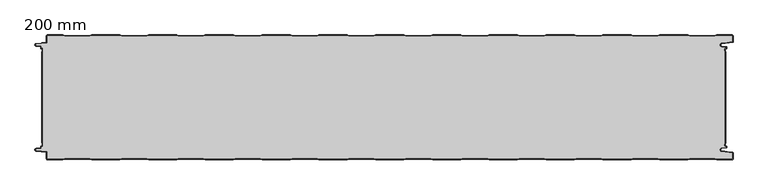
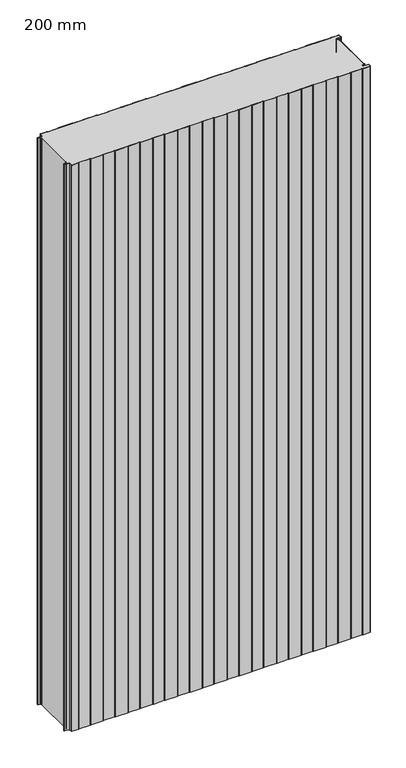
"""IFC4 building model written with IfcOpenShell, lengths in millimetres: plate geometry, HIANSA PANEL - H20.F03.001-PANEL FRIGORÍFICO - PANEL FRIGO - Panel de Muro Cortina : 200 mm."""

from ifc_helpers import new_model, si_unit, point, frame_2d, origin, origin_with_axes, place, context, project, spatial, polyline, circle_curve, trimmed, segment, composite_curve, outline, extrude, source, transform, mapped, element, save


def plate_200_mm_aa99bd64(model_context):
    return source(origin(), model_context, "Body", "SweptSolid", [
        extrude(outline(polyline([(555.9827922, -174.0), (555.9827922, -26.0), (556.4221321, -26.6713576), (556.4221321, -173.3286424), (555.9827922, -174.0)])), origin_with_axes(), (0.0, 0.0, 1.0), 2200.0),
        extrude(outline(polyline([(-538.5172078, -26.0), (-538.5172078, -174.0), (-539.1172077, -172.9695032), (-539.1172077, -27.0304968), (-538.5172078, -26.0)])), origin_with_axes(), (0.0, 0.0, 1.0), 2200.0),
        extrude(outline(composite_curve([segment(polyline([(-370.9360691, -1.5), (-411.0983467, -1.5), (-414.0983467, -0.5), (-458.9360691, -0.5), (-461.9360691, -1.5), (-502.0983467, -1.5), (-505.0983467, -0.5), (-529.9172079, -0.5)]), True, "CONTINUOUS"), segment(trimmed(circle_curve(frame_2d((-529.9172079, -1.6)), 1.1), [point((-529.9172079, -0.5))], [point((-531.0172079, -1.6))], True, "CARTESIAN"), True, "CONTINUOUS"), segment(polyline([(-531.0172079, -1.6), (-531.0172079, -11.7987531)]), True, "CONTINUOUS"), segment(trimmed(circle_curve(frame_2d((-532.0172079, -11.7987531)), 1.0), [point((-531.0172079, -11.7987531))], [point((-531.9177042, -12.7937903))], False, "CARTESIAN"), True, "CONTINUOUS"), segment(polyline([(-531.9177042, -12.7937903), (-548.0592062, -14.4079404)]), True, "CONTINUOUS"), segment(trimmed(circle_curve(frame_2d((-547.9000002, -15.9999999)), 1.6), [point((-548.0592062, -14.4079404))], [point((-548.0592062, -17.5920594))], True, "CARTESIAN"), True, "CONTINUOUS"), segment(polyline([(-548.0592062, -17.5920594), (-541.4177042, -18.2562097)]), True, "CONTINUOUS"), segment(trimmed(circle_curve(frame_2d((-541.5172079, -19.2512469)), 1.0), [point((-541.4177042, -18.2562097))], [point((-540.5172079, -19.2512469))], False, "CARTESIAN"), True, "CONTINUOUS"), segment(polyline([(-540.5172079, -19.2512469), (-540.5172079, -21.5), (-539.0172079, -21.5)]), True, "CONTINUOUS"), segment(trimmed(circle_curve(frame_2d((-539.0172079, -22.5)), 1.0), [point((-539.0172079, -21.5))], [point((-538.0172079, -22.5))], False, "CARTESIAN"), True, "CONTINUOUS"), segment(polyline([(-538.0172079, -22.5), (-538.0172079, -25.1412526), (-538.5172079, -26.0), (-538.5172079, -22.0), (-540.0172079, -22.0)]), True, "CONTINUOUS"), segment(trimmed(circle_curve(frame_2d((-540.0172079, -21.0)), 1.0), [point((-540.0172079, -22.0))], [point((-541.0172079, -21.0))], False, "CARTESIAN"), True, "CONTINUOUS"), segment(polyline([(-541.0172079, -21.0), (-541.0172079, -18.7987531), (-548.1089579, -18.0895783)]), True, "CONTINUOUS"), segment(trimmed(circle_curve(frame_2d((-547.9000002, -16.0000002)), 2.1), [point((-548.1089579, -18.0895783))], [point((-548.108958, -13.9104221))], False, "CARTESIAN"), True, "CONTINUOUS"), segment(polyline([(-548.108958, -13.9104221), (-531.5172079, -12.2512469), (-531.5172079, -1.6)]), True, "CONTINUOUS"), segment(trimmed(circle_curve(frame_2d((-529.9172079, -1.6)), 1.6), [point((-531.5172079, -1.6))], [point((-529.9172079, 0.0))], False, "CARTESIAN"), True, "CONTINUOUS"), segment(polyline([(-529.9172079, 0.0), (-505.0172079, 0.0), (-502.0172079, -1.0), (-462.0172079, -1.0), (-459.0172079, 0.0), (-414.0172079, 0.0), (-411.0172079, -1.0), (-371.0172079, -1.0), (-368.0172079, 0.0), (-323.0172079, 0.0), (-320.0172079, -1.0), (-280.0172079, -1.0), (-277.0172079, 0.0), (-232.0172079, 0.0), (-229.0172079, -1.0), (-189.0172079, -1.0), (-186.0172079, 0.0), (-141.0172079, 0.0), (-138.0172079, -1.0), (-98.0172079, -1.0), (-95.0172079, 0.0), (-50.0172079, 0.0), (-47.0172079, -1.0), (-7.0172079, -1.0), (-4.0172079, 0.0), (40.9827921, 0.0), (43.9827921, -1.0), (83.9827921, -1.0), (86.9827921, 0.0), (131.9827921, 0.0), (134.9827921, -1.0), (174.9827921, -1.0), (177.9827921, 0.0), (222.9827921, 0.0), (225.9827921, -1.0), (265.9827921, -1.0), (268.9827921, 0.0), (313.9827921, 0.0), (316.9827921, -1.0), (356.9827921, -1.0), (359.9827921, 0.0), (404.9827921, 0.0), (407.9827921, -1.0), (447.9827921, -1.0), (450.9827921, 0.0), (495.9827921, 0.0), (498.9827921, -1.0), (538.9827921, -1.0), (541.9827921, 0.0), (566.8827921, 0.0)]), True, "CONTINUOUS"), segment(trimmed(circle_curve(frame_2d((566.8827921, -1.6)), 1.6), [point((566.8827921, 0.0))], [point((568.4827921, -1.6))], False, "CARTESIAN"), True, "CONTINUOUS"), segment(polyline([(568.4827921, -1.6), (568.4827921, -11.0950124)]), True, "CONTINUOUS"), segment(trimmed(circle_curve(frame_2d((567.4827921, -11.0950124)), 1.0), [point((568.4827921, -11.0950124))], [point((567.5822958, -12.0900496))], False, "CARTESIAN"), True, "CONTINUOUS"), segment(polyline([(567.5822958, -12.0900496), (550.2837847, -13.8199007)]), True, "CONTINUOUS"), segment(trimmed(circle_curve(frame_2d((550.5873461, -16.0)), 2.2011321), [point((550.2837847, -13.8199007))], [point((550.2837847, -18.1800993))], True, "CARTESIAN"), True, "CONTINUOUS"), segment(polyline([(550.2837847, -18.1800993), (557.5822958, -18.9099504)]), True, "CONTINUOUS"), segment(trimmed(circle_curve(frame_2d((557.4827921, -19.9049876)), 1.0), [point((557.5822958, -18.9099504))], [point((558.4827921, -19.9049876))], False, "CARTESIAN"), True, "CONTINUOUS"), segment(polyline([(558.4827921, -19.9049876), (558.4827921, -21.0)]), True, "CONTINUOUS"), segment(trimmed(circle_curve(frame_2d((557.4827921, -21.0)), 1.0), [point((558.4827921, -21.0))], [point((557.4827921, -22.0))], False, "CARTESIAN"), True, "CONTINUOUS"), segment(polyline([(557.4827921, -22.0), (555.9827921, -22.0), (555.9827921, -26.0), (555.4827921, -25.2359473), (555.4827921, -22.5)]), True, "CONTINUOUS"), segment(trimmed(circle_curve(frame_2d((556.4827921, -22.5)), 1.0), [point((555.4827921, -22.5))], [point((556.4827921, -21.5))], False, "CARTESIAN"), True, "CONTINUOUS"), segment(polyline([(556.4827921, -21.5), (557.9827921, -21.5), (557.9827921, -19.4524938), (550.2340328, -18.6776179)]), True, "CONTINUOUS"), segment(trimmed(circle_curve(frame_2d((550.5859823, -16.0)), 2.7006492), [point((550.2340328, -18.6776179))], [point((550.2340328, -13.3223821))], False, "CARTESIAN"), True, "CONTINUOUS"), segment(polyline([(550.2340328, -13.3223821), (567.9827921, -11.5475062), (567.9827921, -1.6)]), True, "CONTINUOUS"), segment(trimmed(circle_curve(frame_2d((566.8827921, -1.6)), 1.1), [point((567.9827921, -1.6))], [point((566.8827921, -0.5))], True, "CARTESIAN"), True, "CONTINUOUS"), segment(polyline([(566.8827921, -0.5), (542.0639309, -0.5), (539.0639309, -1.5), (498.9016533, -1.5), (495.9016533, -0.5), (451.0639309, -0.5), (448.0639309, -1.5), (407.9016533, -1.5), (404.9016533, -0.5), (360.0639309, -0.5), (357.0639309, -1.5), (316.9016533, -1.5), (313.9016533, -0.5), (269.0639309, -0.5), (266.0639309, -1.5), (225.9016533, -1.5), (222.9016533, -0.5), (178.0639309, -0.5), (175.0639309, -1.5), (134.9016533, -1.5), (131.9016533, -0.5), (87.0639309, -0.5), (84.0639309, -1.5), (43.9016533, -1.5), (40.9016533, -0.5), (-3.9360691, -0.5), (-6.9360691, -1.5), (-47.0983467, -1.5), (-50.0983467, -0.5), (-94.9360691, -0.5), (-97.9360691, -1.5), (-138.0983467, -1.5), (-141.0983467, -0.5), (-185.9360691, -0.5), (-188.9360691, -1.5), (-229.0983467, -1.5), (-232.0983467, -0.5), (-276.9360691, -0.5), (-279.9360691, -1.5), (-320.0983467, -1.5), (-323.0983467, -0.5), (-367.9360691, -0.5), (-370.9360691, -1.5)]), True, "CONTINUOUS")], self_intersect=False)), origin_with_axes(), (0.0, 0.0, 1.0), 2200.0),
        extrude(outline(composite_curve([segment(polyline([(-370.9360691, -198.5), (-367.9360691, -199.5), (-323.0983467, -199.5), (-320.0983467, -198.5), (-279.9360691, -198.5), (-276.9360691, -199.5), (-232.0983467, -199.5), (-229.0983467, -198.5), (-188.9360691, -198.5), (-185.9360691, -199.5), (-141.0983467, -199.5), (-138.0983467, -198.5), (-97.9360691, -198.5), (-94.9360691, -199.5), (-50.0983467, -199.5), (-47.0983467, -198.5), (-6.9360691, -198.5), (-3.9360691, -199.5), (40.9016533, -199.5), (43.9016533, -198.5), (84.0639309, -198.5), (87.0639309, -199.5), (131.9016533, -199.5), (134.9016533, -198.5), (175.0639309, -198.5), (178.0639309, -199.5), (222.9016533, -199.5), (225.9016533, -198.5), (266.0639309, -198.5), (269.0639309, -199.5), (313.9016533, -199.5), (316.9016533, -198.5), (357.0639309, -198.5), (360.0639309, -199.5), (404.9016533, -199.5), (407.9016533, -198.5), (448.0639309, -198.5), (451.0639309, -199.5), (495.9016533, -199.5), (498.9016533, -198.5), (539.0639309, -198.5), (542.0639309, -199.5), (566.8827921, -199.5)]), True, "CONTINUOUS"), segment(trimmed(circle_curve(frame_2d((566.8827921, -198.4)), 1.1), [point((566.8827921, -199.5))], [point((567.9827921, -198.4))], True, "CARTESIAN"), True, "CONTINUOUS"), segment(polyline([(567.9827921, -198.4), (567.9827921, -188.4524938), (550.2340328, -186.6776179)]), True, "CONTINUOUS"), segment(trimmed(circle_curve(frame_2d((550.5859823, -184.0)), 2.7006492), [point((550.2340328, -186.6776179))], [point((550.2340328, -181.3223821))], False, "CARTESIAN"), True, "CONTINUOUS"), segment(polyline([(550.2340328, -181.3223821), (557.9827921, -180.5475062), (557.9827921, -178.5), (556.4827921, -178.5)]), True, "CONTINUOUS"), segment(trimmed(circle_curve(frame_2d((556.4827921, -177.5)), 1.0), [point((556.4827921, -178.5))], [point((555.4827921, -177.5))], False, "CARTESIAN"), True, "CONTINUOUS"), segment(polyline([(555.4827921, -177.5), (555.4827921, -174.7640527), (555.9827921, -174.0), (555.9827921, -178.0), (557.4827921, -178.0)]), True, "CONTINUOUS"), segment(trimmed(circle_curve(frame_2d((557.4827921, -179.0)), 1.0), [point((557.4827921, -178.0))], [point((558.4827921, -179.0))], False, "CARTESIAN"), True, "CONTINUOUS"), segment(polyline([(558.4827921, -179.0), (558.4827921, -180.0950124)]), True, "CONTINUOUS"), segment(trimmed(circle_curve(frame_2d((557.4827921, -180.0950124)), 1.0), [point((558.4827921, -180.0950124))], [point((557.5822958, -181.0900496))], False, "CARTESIAN"), True, "CONTINUOUS"), segment(polyline([(557.5822958, -181.0900496), (550.2837847, -181.8199007)]), True, "CONTINUOUS"), segment(trimmed(circle_curve(frame_2d((550.5873461, -184.0)), 2.2011321), [point((550.2837847, -181.8199007))], [point((550.2837847, -186.1800993))], True, "CARTESIAN"), True, "CONTINUOUS"), segment(polyline([(550.2837847, -186.1800993), (567.5822958, -187.9099504)]), True, "CONTINUOUS"), segment(trimmed(circle_curve(frame_2d((567.4827921, -188.9049876)), 1.0), [point((567.5822958, -187.9099504))], [point((568.4827921, -188.9049876))], False, "CARTESIAN"), True, "CONTINUOUS"), segment(polyline([(568.4827921, -188.9049876), (568.4827921, -198.4)]), True, "CONTINUOUS"), segment(trimmed(circle_curve(frame_2d((566.8827921, -198.4)), 1.6), [point((568.4827921, -198.4))], [point((566.8827921, -200.0))], False, "CARTESIAN"), True, "CONTINUOUS"), segment(polyline([(566.8827921, -200.0), (541.9827921, -200.0), (538.9827921, -199.0), (498.9827921, -199.0), (495.9827921, -200.0), (450.9827921, -200.0), (447.9827921, -199.0), (407.9827921, -199.0), (404.9827921, -200.0), (359.9827921, -200.0), (356.9827921, -199.0), (316.9827921, -199.0), (313.9827921, -200.0), (268.9827921, -200.0), (265.9827921, -199.0), (225.9827921, -199.0), (222.9827921, -200.0), (177.9827921, -200.0), (174.9827921, -199.0), (134.9827921, -199.0), (131.9827921, -200.0), (86.9827921, -200.0), (83.9827921, -199.0), (43.9827921, -199.0), (40.9827921, -200.0), (-4.0172079, -200.0), (-7.0172079, -199.0), (-47.0172079, -199.0), (-50.0172079, -200.0), (-95.0172079, -200.0), (-98.0172079, -199.0), (-138.0172079, -199.0), (-141.0172079, -200.0), (-186.0172079, -200.0), (-189.0172079, -199.0), (-229.0172079, -199.0), (-232.0172079, -200.0), (-277.0172079, -200.0), (-280.0172079, -199.0), (-320.0172079, -199.0), (-323.0172079, -200.0), (-368.0172079, -200.0), (-371.0172079, -199.0), (-411.0172079, -199.0), (-414.0172079, -200.0), (-459.0172079, -200.0), (-462.0172079, -199.0), (-502.0172079, -199.0), (-505.0172079, -200.0), (-529.9172079, -200.0)]), True, "CONTINUOUS"), segment(trimmed(circle_curve(frame_2d((-529.9172079, -198.4)), 1.6), [point((-529.9172079, -200.0))], [point((-531.5172079, -198.4))], False, "CARTESIAN"), True, "CONTINUOUS"), segment(polyline([(-531.5172079, -198.4), (-531.5172079, -187.7487531), (-548.108958, -186.0895779)]), True, "CONTINUOUS"), segment(trimmed(circle_curve(frame_2d((-547.9000002, -183.9999998)), 2.1), [point((-548.108958, -186.0895779))], [point((-548.1089579, -181.9104217))], False, "CARTESIAN"), True, "CONTINUOUS"), segment(polyline([(-548.1089579, -181.9104217), (-541.0172079, -181.2012469), (-541.0172079, -179.0)]), True, "CONTINUOUS"), segment(trimmed(circle_curve(frame_2d((-540.0172079, -179.0)), 1.0), [point((-541.0172079, -179.0))], [point((-540.0172079, -178.0))], False, "CARTESIAN"), True, "CONTINUOUS"), segment(polyline([(-540.0172079, -178.0), (-538.5172079, -178.0), (-538.5172079, -174.0), (-538.0172079, -174.8587474), (-538.0172079, -177.5)]), True, "CONTINUOUS"), segment(trimmed(circle_curve(frame_2d((-539.0172079, -177.5)), 1.0), [point((-538.0172079, -177.5))], [point((-539.0172079, -178.5))], False, "CARTESIAN"), True, "CONTINUOUS"), segment(polyline([(-539.0172079, -178.5), (-540.5172079, -178.5), (-540.5172079, -180.7487531)]), True, "CONTINUOUS"), segment(trimmed(circle_curve(frame_2d((-541.5172079, -180.7487531)), 1.0), [point((-540.5172079, -180.7487531))], [point((-541.4177042, -181.7437903))], False, "CARTESIAN"), True, "CONTINUOUS"), segment(polyline([(-541.4177042, -181.7437903), (-548.0592062, -182.4079406)]), True, "CONTINUOUS"), segment(trimmed(circle_curve(frame_2d((-547.9000002, -184.0000001)), 1.6), [point((-548.0592062, -182.4079406))], [point((-548.0592062, -185.5920596))], True, "CARTESIAN"), True, "CONTINUOUS"), segment(polyline([(-548.0592062, -185.5920596), (-531.9177042, -187.2062097)]), True, "CONTINUOUS"), segment(trimmed(circle_curve(frame_2d((-532.0172079, -188.2012469)), 1.0), [point((-531.9177042, -187.2062097))], [point((-531.0172079, -188.2012469))], False, "CARTESIAN"), True, "CONTINUOUS"), segment(polyline([(-531.0172079, -188.2012469), (-531.0172079, -198.4)]), True, "CONTINUOUS"), segment(trimmed(circle_curve(frame_2d((-529.9172079, -198.4)), 1.1), [point((-531.0172079, -198.4))], [point((-529.9172079, -199.5))], True, "CARTESIAN"), True, "CONTINUOUS"), segment(polyline([(-529.9172079, -199.5), (-505.0983467, -199.5), (-502.0983467, -198.5), (-461.9360691, -198.5), (-458.9360691, -199.5), (-414.0983467, -199.5), (-411.0983467, -198.5), (-370.9360691, -198.5)]), True, "CONTINUOUS")], self_intersect=False)), origin_with_axes(), (0.0, 0.0, 1.0), 2200.0),
        extrude(outline(composite_curve([segment(polyline([(-461.936069, -1.5), (-458.936069, -0.5), (-414.0983467, -0.5), (-411.0983467, -1.5), (-370.936069, -1.5), (-367.936069, -0.5), (-323.0983467, -0.5), (-320.0983467, -1.5), (-279.936069, -1.5), (-276.936069, -0.5), (-232.0983467, -0.5), (-229.0983467, -1.5), (-188.936069, -1.5), (-185.936069, -0.5), (-141.0983467, -0.5), (-138.0983467, -1.5), (-97.936069, -1.5), (-94.936069, -0.5), (-50.0983467, -0.5), (-47.0983467, -1.5), (-6.936069, -1.5), (-3.936069, -0.5), (40.9016533, -0.5), (43.9016533, -1.5), (84.063931, -1.5), (87.063931, -0.5), (131.9016533, -0.5), (134.9016533, -1.5), (175.063931, -1.5), (178.063931, -0.5), (222.9016533, -0.5), (225.9016533, -1.5), (266.063931, -1.5), (269.063931, -0.5), (313.9016533, -0.5), (316.9016533, -1.5), (357.063931, -1.5), (360.063931, -0.5), (404.9016533, -0.5), (407.9016533, -1.5), (448.063931, -1.5), (451.063931, -0.5), (495.9016533, -0.5), (498.9016533, -1.5), (539.063931, -1.5), (542.063931, -0.5), (566.8827921, -0.5)]), True, "CONTINUOUS"), segment(trimmed(circle_curve(frame_2d((566.8827921, -1.6)), 1.1), [point((566.8827921, -0.5))], [point((567.9827921, -1.6))], False, "CARTESIAN"), True, "CONTINUOUS"), segment(polyline([(567.9827921, -1.6), (567.9827921, -11.5475062), (550.2340328, -13.3223821)]), True, "CONTINUOUS"), segment(trimmed(circle_curve(frame_2d((550.5859824, -16.0)), 2.7006492), [point((550.2340328, -13.3223821))], [point((550.2340328, -18.6776179))], True, "CARTESIAN"), True, "CONTINUOUS"), segment(polyline([(550.2340328, -18.6776179), (557.9827921, -19.4524938), (557.9827921, -21.5), (556.4827921, -21.5)]), True, "CONTINUOUS"), segment(trimmed(circle_curve(frame_2d((556.4827921, -22.5)), 1.0), [point((556.4827921, -21.5))], [point((555.4827921, -22.5))], True, "CARTESIAN"), True, "CONTINUOUS"), segment(polyline([(555.4827921, -22.5), (555.4827921, -25.2359473), (555.9827921, -26.0), (555.9827921, -174.0), (555.4827921, -174.7640527), (555.4827921, -177.5)]), True, "CONTINUOUS"), segment(trimmed(circle_curve(frame_2d((556.4827921, -177.5)), 1.0), [point((555.4827921, -177.5))], [point((556.4827921, -178.5))], True, "CARTESIAN"), True, "CONTINUOUS"), segment(polyline([(556.4827921, -178.5), (557.9827921, -178.5), (557.9827921, -180.5475062), (550.2340328, -181.3223821)]), True, "CONTINUOUS"), segment(trimmed(circle_curve(frame_2d((550.5859824, -184.0)), 2.7006492), [point((550.2340328, -181.3223821))], [point((550.2340328, -186.6776179))], True, "CARTESIAN"), True, "CONTINUOUS"), segment(polyline([(550.2340328, -186.6776179), (567.9827921, -188.4524938), (567.9827921, -198.4)]), True, "CONTINUOUS"), segment(trimmed(circle_curve(frame_2d((566.8827921, -198.4)), 1.1), [point((567.9827921, -198.4))], [point((566.8827921, -199.5))], False, "CARTESIAN"), True, "CONTINUOUS"), segment(polyline([(566.8827921, -199.5), (542.063931, -199.5), (539.063931, -198.5), (498.9016533, -198.5), (495.9016533, -199.5), (451.063931, -199.5), (448.063931, -198.5), (407.9016533, -198.5), (404.9016533, -199.5), (360.063931, -199.5), (357.063931, -198.5), (316.9016533, -198.5), (313.9016533, -199.5), (269.063931, -199.5), (266.063931, -198.5), (225.9016533, -198.5), (222.9016533, -199.5), (178.063931, -199.5), (175.063931, -198.5), (134.9016533, -198.5), (131.9016533, -199.5), (87.063931, -199.5), (84.063931, -198.5), (43.9016533, -198.5), (40.9016533, -199.5), (-3.936069, -199.5), (-6.936069, -198.5), (-47.0983467, -198.5), (-50.0983467, -199.5), (-94.936069, -199.5), (-97.936069, -198.5), (-138.0983467, -198.5), (-141.0983467, -199.5), (-185.936069, -199.5), (-188.936069, -198.5), (-229.0983467, -198.5), (-232.0983467, -199.5), (-276.936069, -199.5), (-279.936069, -198.5), (-320.0983467, -198.5), (-323.0983467, -199.5), (-367.936069, -199.5), (-370.936069, -198.5), (-411.0983467, -198.5), (-414.0983467, -199.5), (-458.936069, -199.5), (-461.936069, -198.5), (-502.0983467, -198.5), (-505.0983467, -199.5), (-529.9172079, -199.5)]), True, "CONTINUOUS"), segment(trimmed(circle_curve(frame_2d((-529.9172079, -198.4)), 1.1), [point((-529.9172079, -199.5))], [point((-531.0172079, -198.4))], False, "CARTESIAN"), True, "CONTINUOUS"), segment(polyline([(-531.0172079, -198.4), (-531.0172079, -188.2012469)]), True, "CONTINUOUS"), segment(trimmed(circle_curve(frame_2d((-532.0172079, -188.2012469)), 1.0), [point((-531.0172079, -188.2012469))], [point((-531.9177042, -187.2062097))], True, "CARTESIAN"), True, "CONTINUOUS"), segment(polyline([(-531.9177042, -187.2062097), (-548.0592062, -185.5920596)]), True, "CONTINUOUS"), segment(trimmed(circle_curve(frame_2d((-547.9000002, -184.0000001)), 1.6), [point((-548.0592062, -185.5920596))], [point((-548.0592062, -182.4079406))], False, "CARTESIAN"), True, "CONTINUOUS"), segment(polyline([(-548.0592062, -182.4079406), (-541.4177041, -181.7437903)]), True, "CONTINUOUS"), segment(trimmed(circle_curve(frame_2d((-541.5172079, -180.7487531)), 1.0), [point((-541.4177041, -181.7437903))], [point((-540.5172079, -180.7487531))], True, "CARTESIAN"), True, "CONTINUOUS"), segment(polyline([(-540.5172079, -180.7487531), (-540.5172079, -178.5), (-539.0172079, -178.5)]), True, "CONTINUOUS"), segment(trimmed(circle_curve(frame_2d((-539.0172079, -177.5)), 1.0), [point((-539.0172079, -178.5))], [point((-538.0172079, -177.5))], True, "CARTESIAN"), True, "CONTINUOUS"), segment(polyline([(-538.0172079, -177.5), (-538.0172079, -174.8587474), (-538.5172079, -174.0), (-538.5172079, -26.0), (-538.0172079, -25.1412526), (-538.0172079, -22.5)]), True, "CONTINUOUS"), segment(trimmed(circle_curve(frame_2d((-539.0172079, -22.5)), 1.0), [point((-538.0172079, -22.5))], [point((-539.0172079, -21.5))], True, "CARTESIAN"), True, "CONTINUOUS"), segment(polyline([(-539.0172079, -21.5), (-540.5172079, -21.5), (-540.5172079, -19.2512469)]), True, "CONTINUOUS"), segment(trimmed(circle_curve(frame_2d((-541.5172079, -19.2512469)), 1.0), [point((-540.5172079, -19.2512469))], [point((-541.4177041, -18.2562097))], True, "CARTESIAN"), True, "CONTINUOUS"), segment(polyline([(-541.4177041, -18.2562097), (-548.0592062, -17.5920594)]), True, "CONTINUOUS"), segment(trimmed(circle_curve(frame_2d((-547.9000003, -15.9999999)), 1.6), [point((-548.0592062, -17.5920594))], [point((-548.0592062, -14.4079404))], False, "CARTESIAN"), True, "CONTINUOUS"), segment(polyline([(-548.0592062, -14.4079404), (-531.9177042, -12.7937903)]), True, "CONTINUOUS"), segment(trimmed(circle_curve(frame_2d((-532.0172079, -11.7987531)), 1.0), [point((-531.9177042, -12.7937903))], [point((-531.0172079, -11.7987531))], True, "CARTESIAN"), True, "CONTINUOUS"), segment(polyline([(-531.0172079, -11.7987531), (-531.0172079, -1.6)]), True, "CONTINUOUS"), segment(trimmed(circle_curve(frame_2d((-529.9172079, -1.6)), 1.1), [point((-531.0172079, -1.6))], [point((-529.9172079, -0.5))], False, "CARTESIAN"), True, "CONTINUOUS"), segment(polyline([(-529.9172079, -0.5), (-505.0983467, -0.5), (-502.0983467, -1.5), (-461.936069, -1.5)]), True, "CONTINUOUS")], self_intersect=False)), origin_with_axes(), (0.0, 0.0, 1.0), 2200.0),
    ])


if __name__ == "__main__":
    model = new_model("IFC4")
    model_context = context("Model", 3, world=origin())
    ifc_project = project(units=[si_unit("LENGTHUNIT", "METRE", prefix="MILLI")], contexts=[model_context])
    site = spatial("IfcSite", under=ifc_project)
    building = spatial("IfcBuilding", under=site)
    placement = place(None, origin())
    plate_200_mm_shape = plate_200_mm_aa99bd64(model_context)
    element("IfcPlate", 1, ObjectType="HIANSA PANEL - H20.F03.001-PANEL FRIGORÍFICO - PANEL FRIGO - Panel de Muro Cortina : 200 mm", at=placement, inside=building, context=model_context, shape_type="MappedRepresentation", body=[
        mapped(plate_200_mm_shape, transform((0.0, 0.0, 0.0), x_axis=(1.0, 0.0, 0.0), y_axis=(0.0, 1.0, 0.0), z_axis=(0.0, 0.0, 1.0))),
    ])
    save(model, "model.ifc")
